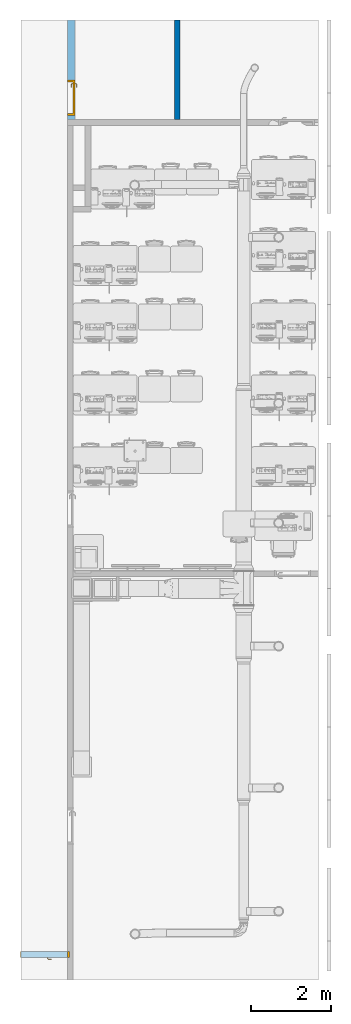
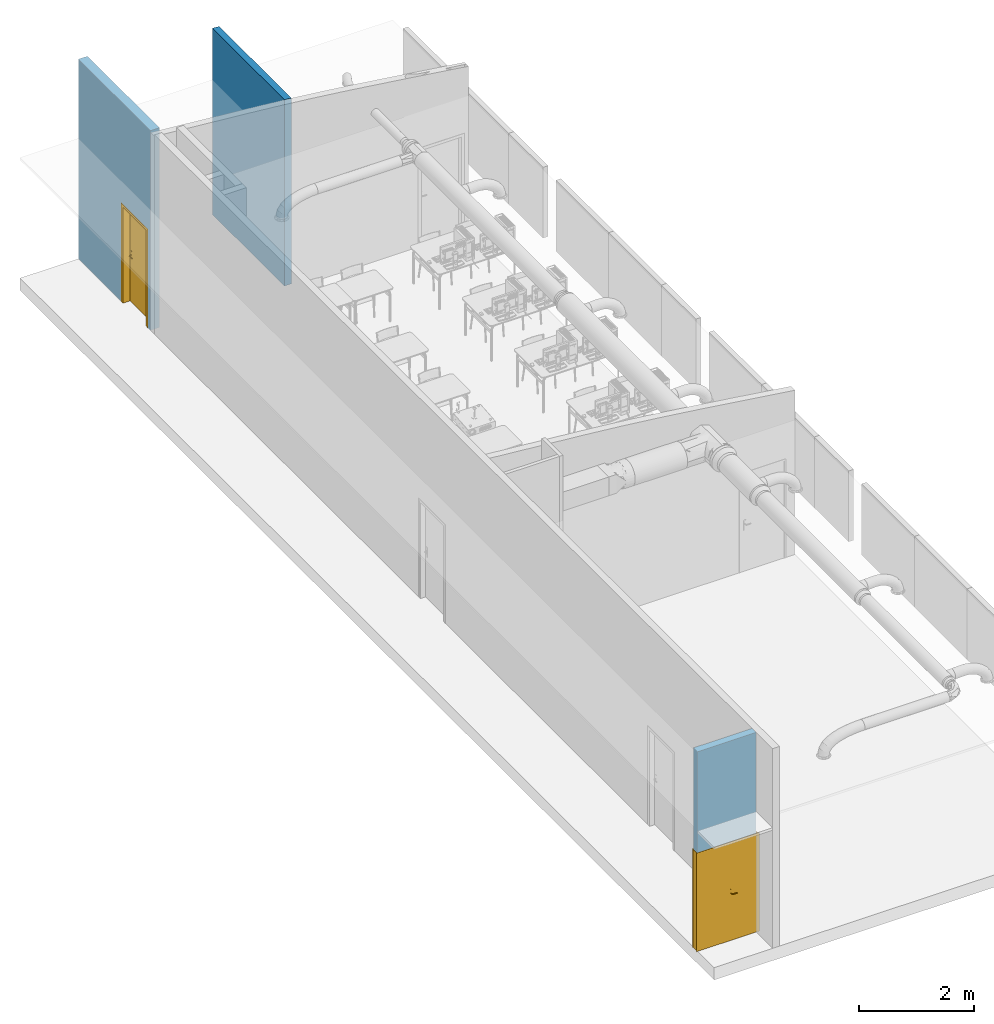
# One storey, part 5 of 31: 2 doors, 1 wall, 2 openings, plus 2 elements that do not belong to this part.
"""IFC2X3 building model written with IfcOpenShell, lengths in millimetres."""

from ifc_helpers import new_model, entity, si_unit, converted_unit, derived_unit, direction, frame, frame_2d, origin, place, context, subcontext, project, spatial, rectangle, extrude, faceted_brep, source, transform, mapped, material, material_list, layer, layer_set, layer_usage, type_object, type_shapes, element, fill, save


model = new_model("IFC2X3")

# Units and contexts
model_context = context("Model", 3, precision=0.01, world=origin(), true_north=direction((6.123031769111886e-17, 1.0)))
body_context = subcontext(model_context, "Body", "Model", "MODEL_VIEW")
ifc_project = project(units=[si_unit("LENGTHUNIT", "METRE", prefix="MILLI"), si_unit("AREAUNIT", "SQUARE_METRE"), si_unit("VOLUMEUNIT", "CUBIC_METRE"), converted_unit("PLANEANGLEUNIT", "DEGREE", entity("IfcRatioMeasure", 0.017453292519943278), si_unit("PLANEANGLEUNIT", "RADIAN"), dimensions=[0, 0, 0, 0, 0, 0, 0]), si_unit("MASSUNIT", "GRAM", prefix="KILO"), derived_unit("MASSDENSITYUNIT", [(si_unit("MASSUNIT", "GRAM", prefix="KILO"), 1), (si_unit("LENGTHUNIT", "METRE"), -3)]), derived_unit("MOMENTOFINERTIAUNIT", [(si_unit("LENGTHUNIT", "METRE"), 4)]), si_unit("TIMEUNIT", "SECOND"), si_unit("FREQUENCYUNIT", "HERTZ"), si_unit("THERMODYNAMICTEMPERATUREUNIT", "DEGREE_CELSIUS"), derived_unit("THERMALTRANSMITTANCEUNIT", [(si_unit("MASSUNIT", "GRAM", prefix="KILO"), 1), (si_unit("THERMODYNAMICTEMPERATUREUNIT", "KELVIN"), -1), (si_unit("TIMEUNIT", "SECOND"), -3)]), derived_unit("VOLUMETRICFLOWRATEUNIT", [(si_unit("LENGTHUNIT", "METRE"), 3), (si_unit("TIMEUNIT", "SECOND"), -1)]), derived_unit("MASSFLOWRATEUNIT", [(si_unit("MASSUNIT", "GRAM", prefix="KILO"), 1), (si_unit("TIMEUNIT", "SECOND"), -1)]), derived_unit("ROTATIONALFREQUENCYUNIT", [(si_unit("TIMEUNIT", "SECOND"), -1)]), si_unit("ELECTRICCURRENTUNIT", "AMPERE"), si_unit("ELECTRICVOLTAGEUNIT", "VOLT"), si_unit("POWERUNIT", "WATT"), si_unit("FORCEUNIT", "NEWTON", prefix="KILO"), si_unit("ILLUMINANCEUNIT", "LUX"), si_unit("LUMINOUSFLUXUNIT", "LUMEN"), si_unit("LUMINOUSINTENSITYUNIT", "CANDELA"), derived_unit("USERDEFINED", [(si_unit("MASSUNIT", "GRAM", prefix="KILO"), -1), (si_unit("LENGTHUNIT", "METRE"), -2), (si_unit("TIMEUNIT", "SECOND"), 3), (si_unit("LUMINOUSFLUXUNIT", "LUMEN"), 1)]), derived_unit("SOUNDPOWERUNIT", [(si_unit("MASSUNIT", "GRAM", prefix="KILO"), 1), (si_unit("LENGTHUNIT", "METRE"), 2), (si_unit("TIMEUNIT", "SECOND"), -3)]), derived_unit("SOUNDPRESSUREUNIT", [(si_unit("MASSUNIT", "GRAM", prefix="KILO"), 1), (si_unit("LENGTHUNIT", "METRE"), -1), (si_unit("TIMEUNIT", "SECOND"), -2)]), derived_unit("LINEARVELOCITYUNIT", [(si_unit("LENGTHUNIT", "METRE"), 1), (si_unit("TIMEUNIT", "SECOND"), -1)]), si_unit("PRESSUREUNIT", "PASCAL"), derived_unit("USERDEFINED", [(si_unit("LENGTHUNIT", "METRE"), -2), (si_unit("MASSUNIT", "GRAM", prefix="KILO"), 1), (si_unit("TIMEUNIT", "SECOND"), -2)]), derived_unit("LINEARFORCEUNIT", [(si_unit("MASSUNIT", "GRAM", prefix="KILO"), 1), (si_unit("LENGTHUNIT", "METRE"), 1), (si_unit("TIMEUNIT", "SECOND"), -2), (si_unit("LENGTHUNIT", "METRE"), -1)]), derived_unit("PLANARFORCEUNIT", [(si_unit("MASSUNIT", "GRAM", prefix="KILO"), 1), (si_unit("LENGTHUNIT", "METRE"), 1), (si_unit("TIMEUNIT", "SECOND"), -2), (si_unit("LENGTHUNIT", "METRE"), -2)])], contexts=[model_context])

# Site, building, storey
site_placement = place(None, origin())
site = spatial("IfcSite", under=ifc_project, at=site_placement, Name="Default", CompositionType="ELEMENT")
building_placement = place(site_placement, origin())
building = spatial("IfcBuilding", under=site, at=building_placement, CompositionType="ELEMENT")
storey_placement = place(building_placement, frame((0.0, 0.0, 3880.0)))
storey = spatial("IfcBuildingStorey", under=building, at=storey_placement, Name="Niveau 1", CompositionType="ELEMENT", Elevation=3880.0)

# Wall
ifc_material_1 = material(Name="Peinture")
ifc_layer_1 = layer(ifc_material_1, 140.0)
ifc_layer_set_1 = layer_set([ifc_layer_1], Name="Mur de base:Générique - 140 mm")
wall_type_1 = type_object("IfcWallType", Name="Mur de base:Générique - 140 mm", PredefinedType="STANDARD", material=ifc_layer_set_1)
wall_1_placement = place(storey_placement, frame((-3860.0, -320.0, 0.0), z_axis=(0.0, 0.0, 1.0), x_axis=(0.0, -1.0, 0.0)))
element("IfcWall", 1, at=wall_1_placement, inside=storey, type_object=wall_type_1, Name="Mur de base:Générique - 140 mm", ObjectType="Mur de base:Générique - 140 mm", context=body_context, shape_type="Brep", body=[
    faceted_brep([(0.0, -70.0, 3944.1659399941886), (0.0, -70.0, 0.0), (2500.0, -70.0, 0.0), (2500.0, -70.0, 3944.165939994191), (1784.0172588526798, -70.0, 3944.165939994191), (1431.9654822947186, -70.0, 3944.165939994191), (715.9827411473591, -70.0, 3944.165939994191), (2500.0, 70.0, 0.0), (0.0, 70.0, 0.0), (0.0, 70.0, 3929.2898280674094), (715.9827378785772, 70.0, 3929.289828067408), (1250.0, 70.0, 3929.2898280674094), (1784.0172621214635, 70.0, 3929.2898280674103), (2500.0, 70.0, 3929.2898280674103), (0.0, -0.0011671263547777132, 3936.7756599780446), (2500.0, -0.0010789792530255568, 3936.775650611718), (1607.991366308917, -0.14378177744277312, 3936.7908137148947), (491.5570375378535, 8.188795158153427, 3935.9047593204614), (982.9913725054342, -0.14378216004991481, 3936.790813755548)], [[[0, 1, 2, 3, 4, 5, 6]], [[7, 8, 9, 10, 11, 12, 13]], [[2, 1, 8, 7]], [[14, 9, 8, 1, 0]], [[2, 7, 13, 15, 3]], [[15, 16, 4]], [[15, 13, 12]], [[9, 14, 17]], [[16, 18, 6, 5, 4]], [[16, 15, 12]], [[18, 17, 6]], [[10, 17, 18]], [[4, 3, 15]], [[0, 6, 17]], [[12, 11, 10, 18, 16]], [[9, 17, 10]], [[17, 14, 0]]]),
])

# Wall, opening, door
ifc_layer_usage_1 = layer_usage(ifc_layer_set_1, "AXIS2", "POSITIVE", -69.99999999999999)
wall_2_placement = place(storey_placement, frame((-7780.0, -23750.0, 2075.0)))
wall_2 = element("IfcWallStandardCase", 2, at=wall_2_placement, inside=storey, type_object=wall_type_1, material=ifc_layer_usage_1, Name="Mur de base:Générique - 140 mm", ObjectType="Mur de base:Générique - 140 mm", context=body_context, shape_type="SweptSolid", body=[
    extrude(rectangle(XDim=1169.9999999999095, YDim=139.9999999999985, at=frame_2d((584.9999999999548, 1.6981971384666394e-12), x_axis=(1.0, 0.0))), origin(), (0.0, 0.0, 1.0), 2149.99999999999),
])
opening_1_placement = place(wall_2_placement, frame((1220.0, 70.0, -2075.0)))
opening_1 = element("IfcOpeningElement", 3, at=opening_1_placement, cuts=wall_2, Name="Int. Double:PP (1.16m x 2.04m):1", ObjectType="Opening", context=body_context, shape_type="SweptSolid", body=[
    extrude(rectangle(XDim=2075.00000000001, YDim=1230.0000000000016, at=frame_2d((1037.5000000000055, 615.000000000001), x_axis=(1.0, 0.0))), frame((0.0, 0.0, 0.0), z_axis=(0.0, -1.0, 0.0), x_axis=(0.0, 0.0, 1.0)), (0.0, 0.0, 1.0), 139.99999999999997),
])
ifc_material_2 = material(Name="Bois - Panneau de porte")
ifc_material_3 = material(Name="Finition Peinture - Blanc satiné")
ifc_material_4 = material(Name="Bois - Cadre de porte")
ifc_material_list_1 = material_list([ifc_material_2, ifc_material_3, ifc_material_3, ifc_material_3, ifc_material_3, ifc_material_2, ifc_material_4, ifc_material_4, ifc_material_4])
ifc_material_list_2 = material_list([ifc_material_2, ifc_material_3, ifc_material_3, ifc_material_3, ifc_material_3, ifc_material_2, ifc_material_4, ifc_material_4, ifc_material_4])
door_style_1 = type_object("IfcDoorStyle", Name="Int. Double:PP (1.16m x 2.04m)", ConstructionType="NOTDEFINED", OperationType="NOTDEFINED", ParameterTakesPrecedence=False, Sizeable=False, material=ifc_material_list_2)
shared_shape_1 = source(origin(), body_context, "Body", "Brep", [
    faceted_brep([(615.0, 40.0, 2040.0), (615.0, 40.0, 0.0), (35.0, 40.0, 0.0), (35.0, 40.0, 2040.0), (615.0, 0.0, 2040.0), (35.0, 0.0, 2040.0), (35.0, 0.0, 0.0), (615.0, 0.0, 0.0)], [[[0, 1, 2, 3]], [[4, 5, 6, 7]], [[3, 5, 4, 0]], [[2, 6, 5, 3]], [[1, 7, 6, 2]], [[0, 4, 7, 1]]]),
    faceted_brep([(685.3527618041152, -5.0, 866.003983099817), (695.0, -5.0, 870.0), (695.0, -5.0, 1080.0), (685.3527618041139, -5.0, 1083.9960169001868), (675.0, -5.0, 1085.3589838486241), (664.6472381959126, -5.0, 1083.996016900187), (655.0, -5.0, 1080.0), (655.0, -5.0, 870.0), (664.6472381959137, -5.0, 866.003983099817), (675.0, -5.0, 864.6410161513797), (685.3527618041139, 0.0, 1083.9960169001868), (695.0, 0.0, 1080.0), (695.0, 0.0, 870.0), (685.3527618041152, 0.0, 866.003983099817), (675.0, 0.0, 864.6410161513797), (664.6472381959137, 0.0, 866.003983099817), (655.0, 0.0, 870.0), (655.0, 0.0, 1080.0), (664.6472381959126, 0.0, 1083.996016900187), (675.0, 0.0, 1085.3589838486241)], [[[0, 1, 2, 3, 4, 5, 6, 7, 8, 9]], [[10, 11, 12, 13, 14, 15, 16, 17, 18, 19]], [[16, 15, 8, 7]], [[8, 15, 14, 9]], [[14, 13, 0, 9]], [[13, 12, 1, 0]], [[2, 1, 12, 11]], [[11, 10, 3, 2]], [[3, 10, 19, 4]], [[19, 18, 5, 4]], [[18, 17, 6, 5]], [[7, 6, 17, 16]]]),
    faceted_brep([(685.3527618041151, 40.0, 866.003983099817), (695.0, 40.0, 870.0), (695.0, 40.0, 1080.0), (685.3527618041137, 40.0, 1083.996016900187), (675.0, 40.0, 1085.3589838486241), (664.6472381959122, 40.0, 1083.9960169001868), (655.0, 40.0, 1080.0), (655.0, 40.0, 870.0), (664.6472381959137, 40.0, 866.0039830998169), (675.0, 40.0, 864.6410161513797), (685.3527618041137, 45.0, 1083.996016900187), (695.0, 45.0, 1080.0), (695.0, 45.0, 870.0), (685.3527618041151, 45.0, 866.003983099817), (675.0, 45.0, 864.6410161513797), (664.6472381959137, 45.0, 866.0039830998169), (655.0, 45.0, 870.0), (655.0, 45.0, 1080.0), (664.6472381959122, 45.0, 1083.9960169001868), (675.0, 45.0, 1085.3589838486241)], [[[0, 1, 2, 3, 4, 5, 6, 7, 8, 9]], [[10, 11, 12, 13, 14, 15, 16, 17, 18, 19]], [[11, 10, 3, 2]], [[3, 10, 19, 4]], [[19, 18, 5, 4]], [[18, 17, 6, 5]], [[7, 6, 17, 16]], [[16, 15, 8, 7]], [[8, 15, 14, 9]], [[14, 13, 0, 9]], [[13, 12, 1, 0]], [[2, 1, 12, 11]]]),
    faceted_brep([(672.9747013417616, -5.0, 1007.7804408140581), (677.0252986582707, -5.0, 1007.7804408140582), (681.0, -5.0, 1007.0), (681.0, -5.0, 993.0), (677.0252986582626, -5.0, 992.2195591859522), (672.9747013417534, -5.0, 992.21955918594), (669.0, -5.0, 993.0), (669.0, -5.0, 1007.0), (669.0, -32.65095070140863, 1007.0), (672.9747013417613, -31.00457549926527, 1007.7804408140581), (689.0235851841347, -47.053459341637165, 1007.7804408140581), (690.7013975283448, -43.00286202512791, 1007.7804408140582), (677.0252986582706, -29.326763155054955, 1007.7804408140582), (681.0, -27.680387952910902, 1007.0), (681.0, -27.68038795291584, 993.0), (677.0252986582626, -29.326763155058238, 992.2195591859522), (690.7013975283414, -43.0028620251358, 992.2195591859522), (689.0235851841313, -47.05345934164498, 992.21955918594), (672.9747013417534, -31.00457549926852, 992.21955918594), (669.0, -32.65095070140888, 993.0), (687.3772099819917, -51.028160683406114, 1007.0), (692.3477727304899, -39.02816068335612, 1007.0), (692.347772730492, -39.028160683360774, 993.0), (687.3772099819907, -51.02816068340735, 993.0), (775.0186406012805, -51.02816068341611, 993.0), (775.0186406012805, -47.053459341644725, 992.2195591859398), (775.0186406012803, -43.00286202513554, 992.219559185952), (775.0186406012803, -39.028160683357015, 993.0), (775.0186406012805, -39.02816068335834, 1007.0), (775.0186406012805, -43.00286202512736, 1007.780440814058), (775.0186406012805, -47.053459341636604, 1007.7804408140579), (775.0186406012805, -51.02816068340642, 1007.0), (727.3076972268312, -51.0281606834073, 1007.0), (732.860019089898, -45.02816067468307, 1007.878686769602), (733.6832066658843, -39.02816068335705, 1007.0), (733.683206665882, -39.028160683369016, 993.0), (732.8600188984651, -45.02816075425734, 992.1213132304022), (727.3077002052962, -51.02816068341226, 993.0)], [[[0, 1, 2, 3, 4, 5, 6, 7]], [[8, 9, 0, 7]], [[9, 10, 11, 12, 1, 0]], [[12, 13, 2, 1]], [[3, 2, 13, 14]], [[14, 15, 4, 3]], [[15, 16, 17, 18, 5, 4]], [[18, 19, 6, 5]], [[7, 6, 19, 8]], [[20, 10, 9, 8]], [[11, 21, 13, 12]], [[14, 13, 21, 22]], [[22, 16, 15, 14]], [[17, 23, 19, 18]], [[8, 19, 23, 20]], [[24, 25, 26, 27, 28, 29, 30, 31]], [[32, 30, 33]], [[31, 30, 32]], [[10, 20, 32]], [[33, 34, 11]], [[21, 11, 34]], [[34, 29, 28]], [[30, 29, 33]], [[29, 34, 33]], [[10, 32, 33]], [[10, 33, 11]], [[22, 21, 34, 28, 27, 35]], [[35, 26, 36]], [[37, 36, 25]], [[22, 35, 16]], [[35, 27, 26]], [[24, 37, 25]], [[23, 17, 37]], [[37, 17, 36]], [[17, 16, 36]], [[16, 35, 36]], [[25, 36, 26]], [[20, 23, 37, 24, 31, 32]]]),
    faceted_brep([(672.9747013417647, 45.0, 1007.7804408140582), (669.0, 45.0, 1007.0), (669.0, 45.0, 993.0), (672.974701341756, 45.0, 992.2195591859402), (677.0252986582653, 45.0, 992.2195591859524), (681.0, 45.0, 993.0), (681.0, 45.0, 1007.0), (677.025298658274, 45.0, 1007.7804408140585), (681.0, 67.48520450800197, 993.0), (681.0, 67.48520450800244, 1007.0), (677.0252986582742, 69.13157971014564, 1007.7804408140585), (690.8389061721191, 82.94518722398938, 1007.7804408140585), (689.161093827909, 86.99578454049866, 1007.7804408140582), (672.974701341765, 70.80939205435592, 1007.7804408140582), (669.0, 72.45576725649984, 1007.0), (669.0, 72.45576725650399, 993.0), (672.9747013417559, 70.80939205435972, 992.2195591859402), (689.1610938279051, 86.99578454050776, 992.2195591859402), (690.8389061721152, 82.94518722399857, 992.2195591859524), (677.025298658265, 69.13157971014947, 992.2195591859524), (692.4852813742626, 78.97048588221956, 993.0), (692.485281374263, 78.97048588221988, 1007.0), (687.5147186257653, 90.97048588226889, 1007.0), (687.5147186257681, 90.97048588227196, 993.0), (775.0457836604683, 78.97048588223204, 993.0), (775.0457836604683, 82.94518722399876, 992.2195591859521), (775.0457836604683, 86.99578454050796, 992.2195591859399), (775.0457836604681, 90.97048588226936, 993.0), (775.0457836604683, 90.97048588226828, 1007.0), (775.0457836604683, 86.99578454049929, 1007.780440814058), (775.0457836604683, 82.94518722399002, 1007.7804408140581), (775.0457836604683, 78.97048588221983, 1007.0), (733.7655206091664, 78.97048588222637, 993.0), (733.7655325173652, 78.97048588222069, 1007.0), (732.9423448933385, 84.9704858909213, 1007.8786867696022), (727.4452057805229, 90.9704858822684, 1007.0), (727.4452043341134, 90.9704858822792, 993.0), (732.9423451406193, 84.9704858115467, 992.1213132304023)], [[[0, 1, 2, 3, 4, 5, 6, 7]], [[6, 5, 8, 9]], [[9, 10, 7, 6]], [[10, 11, 12, 13, 0, 7]], [[13, 14, 1, 0]], [[2, 1, 14, 15]], [[15, 16, 3, 2]], [[16, 17, 18, 19, 4, 3]], [[19, 8, 5, 4]], [[9, 8, 20, 21]], [[21, 11, 10, 9]], [[12, 22, 14, 13]], [[15, 14, 22, 23]], [[23, 17, 16, 15]], [[18, 20, 8, 19]], [[24, 25, 26, 27, 28, 29, 30, 31]], [[21, 20, 32, 24, 31, 33]], [[33, 30, 34]], [[35, 34, 29]], [[21, 33, 11]], [[33, 31, 30]], [[28, 35, 29]], [[22, 12, 35]], [[35, 12, 34]], [[12, 11, 34]], [[11, 33, 34]], [[29, 34, 30]], [[22, 35, 28, 27, 36, 23]], [[36, 26, 37]], [[27, 26, 36]], [[17, 23, 36]], [[37, 32, 18]], [[20, 18, 32]], [[32, 25, 24]], [[26, 25, 37]], [[25, 32, 37]], [[17, 36, 37]], [[17, 37, 18]]]),
    faceted_brep([(615.0, 40.0, 2040.0), (1195.0, 40.0, 2040.0), (1195.0, 40.0, 0.0), (615.0, 40.0, 0.0), (615.0, 0.0, 2040.0), (615.0, 0.0, 0.0), (1195.0, 0.0, 0.0), (1195.0, 0.0, 2040.0)], [[[0, 1, 2, 3]], [[4, 5, 6, 7]], [[1, 0, 4, 7]], [[2, 1, 7, 6]], [[3, 2, 6, 5]], [[0, 3, 5, 4]]]),
    faceted_brep([(0.0, 0.0, 0.0), (0.0, 140.0, 0.0), (50.0, 140.0, 0.0), (50.0, 40.0, 0.0), (35.0, 40.0, 0.0), (35.0, 0.0, 0.0), (0.0, 0.0, 2075.0), (0.0, 140.0, 2075.0), (1230.0, 140.0, 2075.0), (1230.0, 140.0, 0.0), (1180.0, 140.0, 0.0), (1180.0, 140.0, 2025.0), (50.0, 140.0, 2025.0), (50.0, 40.0, 2025.0), (1180.0, 40.0, 2025.0), (1180.0, 40.0, 0.0), (1195.0, 40.0, 0.0), (1195.0, 40.0, 2040.0), (35.0, 40.0, 2040.0), (35.0, 0.0, 2040.0), (1195.0, 0.0, 2040.0), (1195.0, 0.0, 0.0), (1230.0, 0.0, 0.0), (1230.0, 0.0, 2075.0)], [[[0, 1, 2, 3, 4, 5]], [[1, 0, 6, 7]], [[2, 1, 7, 8, 9, 10, 11, 12]], [[3, 2, 12, 13]], [[4, 3, 13, 14, 15, 16, 17, 18]], [[5, 4, 18, 19]], [[0, 5, 19, 20, 21, 22, 23, 6]], [[8, 23, 22, 9]], [[22, 21, 16, 15, 10, 9]], [[14, 11, 10, 15]], [[20, 17, 16, 21]], [[7, 6, 23, 8]], [[13, 12, 11, 14]], [[19, 18, 17, 20]]]),
    faceted_brep([(15.0, 140.0, 0.0), (-15.0, 140.0, 0.0), (-15.0, 145.0, 0.0), (15.0, 145.0, 0.0), (15.0, 140.0, 2060.0), (1215.0, 140.0, 2060.0), (1215.0, 140.0, 0.0), (1245.0, 140.0, 0.0), (1245.0, 140.0, 2090.0), (-15.0, 140.0, 2090.0), (-15.0, 145.0, 2090.0), (1245.0, 145.0, 2090.0), (1245.0, 145.0, 0.0), (1215.0, 145.0, 0.0), (1215.0, 145.0, 2060.0), (15.0, 145.0, 2060.0)], [[[0, 1, 2, 3]], [[1, 0, 4, 5, 6, 7, 8, 9]], [[2, 1, 9, 10]], [[3, 2, 10, 11, 12, 13, 14, 15]], [[0, 3, 15, 4]], [[5, 14, 13, 6]], [[6, 13, 12, 7]], [[11, 8, 7, 12]], [[10, 9, 8, 11]], [[4, 15, 14, 5]]]),
    faceted_brep([(-15.0, -5.0, 0.0), (15.0, -5.0, 0.0), (15.0, -5.0, 2060.0), (1215.0, -5.0, 2060.0), (1215.0, -5.0, 0.0), (1245.0, -5.0, 0.0), (1245.0, -5.0, 2090.0), (-15.0, -5.0, 2090.0), (-15.0, 0.0, 0.0), (-15.0, 0.0, 2090.0), (15.0, 0.0, 0.0), (1245.0, 0.0, 2090.0), (1245.0, 0.0, 0.0), (1215.0, 0.0, 0.0), (1215.0, 0.0, 2060.0), (15.0, 0.0, 2060.0)], [[[0, 1, 2, 3, 4, 5, 6, 7]], [[8, 0, 7, 9]], [[10, 8, 9, 11, 12, 13, 14, 15]], [[1, 10, 15, 2]], [[3, 14, 13, 4]], [[11, 6, 5, 12]], [[9, 7, 6, 11]], [[2, 15, 14, 3]], [[4, 13, 12, 5]], [[1, 0, 8, 10]]]),
])
type_shapes(door_style_1, [shared_shape_1])
door_1_placement = place(opening_1_placement, frame((-1230.0, -140.0, 0.0)))
door_1 = element("IfcDoor", 4, at=door_1_placement, inside=storey, type_object=door_style_1, material=ifc_material_list_1, Name="Int. Double:PP (1.16m x 2.04m)", ObjectType="Int. Double:PP (1.16m x 2.04m)", OverallHeight=2075.000000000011, OverallWidth=1230.0000000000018, context=body_context, shape_type="MappedRepresentation", body=[
    mapped(shared_shape_1, transform((0.0, 0.0, 0.0), scale=1.0)),
])
fill(opening_1, door_1)

ifc_material_5 = material(Name="Mur par défaut")
ifc_layer_2 = layer(ifc_material_5, 180.0)
ifc_layer_set_2 = layer_set([ifc_layer_2], Name="Mur de base:Générique - 180 mm")
ifc_layer_usage_2 = layer_usage(ifc_layer_set_2, "AXIS2", "NEGATIVE", 90.0)
wall_type_2 = type_object("IfcWallType", Name="Mur de base:Générique - 180 mm", PredefinedType="STANDARD", material=ifc_layer_set_2)
wall_3_placement = place(storey_placement, frame((-6520.0, -2820.0, 0.0), z_axis=(0.0, 0.0, 1.0), x_axis=(0.0, 1.0, 0.0)))
wall_3 = element("IfcWallStandardCase", 5, at=wall_3_placement, inside=storey, type_object=wall_type_2, material=ifc_layer_usage_2, Name="Mur de base:Générique - 180 mm", ObjectType="Mur de base:Générique - 180 mm", context=body_context, shape_type="SweptSolid", body=[
    extrude(rectangle(XDim=2500.000000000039, YDim=180.00000000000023, at=frame_2d((1250.0000000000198, 0.0), x_axis=(1.0, 0.0))), origin(), (0.0, 0.0, 1.0), 4225.000000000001),
])
opening_2_placement = place(wall_3_placement, frame((1000.0, 90.0, 0.0)))
opening_2 = element("IfcOpeningElement", 6, at=opening_2_placement, cuts=wall_3, Name="Int. Simple:PP (0.83m x 2.04m):1", ObjectType="Opening", context=body_context, shape_type="SweptSolid", body=[
    extrude(rectangle(XDim=2075.0, YDim=900.0000000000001, at=frame_2d((1037.5, 450.00000000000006), x_axis=(1.0, 0.0))), frame((0.0, 0.0, 0.0), z_axis=(0.0, -1.0, 0.0), x_axis=(0.0, 0.0, 1.0)), (0.0, 0.0, 1.0), 180.0),
])
ifc_material_list_3 = material_list([ifc_material_3, ifc_material_3, ifc_material_3, ifc_material_3, ifc_material_2, ifc_material_4, ifc_material_4, ifc_material_4])
ifc_material_list_4 = material_list([ifc_material_3, ifc_material_3, ifc_material_3, ifc_material_3, ifc_material_2, ifc_material_4, ifc_material_4, ifc_material_4])
door_style_2 = type_object("IfcDoorStyle", Name="Int. Simple:PP (0.83m x 2.04m)", ConstructionType="NOTDEFINED", OperationType="SINGLE_SWING_RIGHT", ParameterTakesPrecedence=False, Sizeable=False, material=ifc_material_list_4)
shared_shape_2 = source(origin(), body_context, "Body", "Brep", [
    faceted_brep([(895.0, -5.0, 870.0), (895.0, -5.0, 1080.0), (885.3527618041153, -5.0, 1083.996016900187), (875.0, -5.0, 1085.3589838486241), (864.6472381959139, -5.0, 1083.9960169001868), (855.0, -5.0, 1080.0), (855.0, -5.0, 870.0), (864.6472381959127, -5.0, 866.003983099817), (875.0, -5.0, 864.6410161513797), (885.3527618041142, -5.0, 866.003983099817), (895.0, 0.0, 1080.0), (895.0, 0.0, 870.0), (885.3527618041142, 0.0, 866.003983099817), (875.0, 0.0, 864.6410161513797), (864.6472381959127, 0.0, 866.003983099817), (855.0, 0.0, 870.0), (855.0, 0.0, 1080.0), (864.6472381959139, 0.0, 1083.9960169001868), (875.0, 0.0, 1085.3589838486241), (885.3527618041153, 0.0, 1083.996016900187)], [[[0, 1, 2, 3, 4, 5, 6, 7, 8, 9]], [[10, 11, 12, 13, 14, 15, 16, 17, 18, 19]], [[9, 12, 11, 0]], [[8, 13, 12, 9]], [[7, 14, 13, 8]], [[7, 6, 15, 14]], [[15, 6, 5, 16]], [[4, 17, 16, 5]], [[3, 18, 17, 4]], [[2, 19, 18, 3]], [[2, 1, 10, 19]], [[11, 10, 1, 0]]]),
    faceted_brep([(895.0, 40.0, 870.0), (895.0, 40.0, 1080.0), (885.3527618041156, 40.0, 1083.9960169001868), (875.0, 40.0, 1085.3589838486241), (864.6472381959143, 40.0, 1083.996016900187), (855.0, 40.0, 1080.0), (855.0, 40.0, 870.0), (864.6472381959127, 40.0, 866.003983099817), (875.0, 40.0, 864.6410161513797), (885.3527618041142, 40.0, 866.0039830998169), (875.0, 45.0, 1085.3589838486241), (885.3527618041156, 45.0, 1083.9960169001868), (895.0, 45.0, 1080.0), (895.0, 45.0, 870.0), (885.3527618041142, 45.0, 866.0039830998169), (875.0, 45.0, 864.6410161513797), (864.6472381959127, 45.0, 866.003983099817), (855.0, 45.0, 870.0), (855.0, 45.0, 1080.0), (864.6472381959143, 45.0, 1083.996016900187)], [[[0, 1, 2, 3, 4, 5, 6, 7, 8, 9]], [[10, 11, 12, 13, 14, 15, 16, 17, 18, 19]], [[4, 19, 18, 5]], [[3, 10, 19, 4]], [[2, 11, 10, 3]], [[2, 1, 12, 11]], [[13, 12, 1, 0]], [[9, 14, 13, 0]], [[8, 15, 14, 9]], [[7, 16, 15, 8]], [[7, 6, 17, 16]], [[17, 6, 5, 18]]]),
    faceted_brep([(872.9747013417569, -5.0, 1007.7804408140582), (877.0252986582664, -5.0, 1007.7804408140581), (881.0, -5.0, 1007.0), (881.0, -5.0, 993.0), (877.0252986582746, -5.0, 992.21955918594), (872.9747013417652, -5.0, 992.2195591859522), (869.0, -5.0, 993.0), (869.0, -5.0, 1007.0), (877.0252986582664, -31.0045754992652, 1007.7804408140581), (881.0, -32.650950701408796, 1007.0), (872.9747013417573, -29.326763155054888, 1007.7804408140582), (859.298602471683, -43.00286202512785, 1007.7804408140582), (860.9764148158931, -47.053459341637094, 1007.7804408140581), (869.0, -27.68038795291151, 1007.0), (869.0, -27.680387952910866, 993.0), (872.9747013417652, -29.32676315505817, 992.2195591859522), (877.0252986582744, -31.004575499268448, 992.21955918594), (860.9764148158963, -47.05345934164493, 992.21955918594), (859.2986024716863, -43.00286202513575, 992.2195591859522), (881.0, -32.650950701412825, 993.0), (862.6227900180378, -51.028160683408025, 1007.0), (857.6522272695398, -39.02816068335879, 1007.0), (857.6522272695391, -39.02816068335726, 993.0), (862.6227900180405, -51.02816068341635, 993.0), (774.9813593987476, -51.02816068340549, 1007.0), (774.9813593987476, -47.05345934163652, 1007.7804408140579), (774.9813593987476, -43.00286202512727, 1007.780440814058), (774.9813593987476, -39.0281606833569, 1007.0), (774.9813593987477, -39.028160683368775, 993.0), (774.9813593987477, -43.00286202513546, 992.219559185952), (774.9813593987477, -47.05345934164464, 992.2195591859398), (774.9813593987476, -51.02816068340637, 993.0), (817.13998091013, -45.02816067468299, 1007.878686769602), (822.6923027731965, -51.02816068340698, 1007.0), (816.3167933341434, -39.02816068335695, 1007.0), (816.3167933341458, -39.02816068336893, 993.0), (817.1399811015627, -45.02816075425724, 992.1213132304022), (822.6923104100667, -51.02816068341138, 993.0)], [[[0, 1, 2, 3, 4, 5, 6, 7]], [[2, 1, 8, 9]], [[1, 0, 10, 11, 12, 8]], [[0, 7, 13, 10]], [[14, 13, 7, 6]], [[5, 15, 14, 6]], [[5, 4, 16, 17, 18, 15]], [[3, 19, 16, 4]], [[9, 19, 3, 2]], [[9, 8, 12, 20]], [[10, 13, 21, 11]], [[22, 21, 13, 14]], [[14, 15, 18, 22]], [[16, 19, 23, 17]], [[20, 23, 19, 9]], [[24, 25, 26, 27, 28, 29, 30, 31]], [[32, 25, 33]], [[33, 25, 24]], [[33, 20, 12]], [[11, 34, 32]], [[34, 11, 21]], [[27, 26, 34]], [[32, 26, 25]], [[32, 34, 26]], [[32, 33, 12]], [[11, 32, 12]], [[21, 22, 35, 28, 27, 34]], [[36, 29, 35]], [[30, 36, 37]], [[18, 35, 22]], [[29, 28, 35]], [[30, 37, 31]], [[37, 17, 23]], [[36, 17, 37]], [[36, 18, 17]], [[36, 35, 18]], [[29, 36, 30]], [[23, 20, 33, 24, 31, 37]]]),
    faceted_brep([(872.9747013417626, 45.0, 992.2195591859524), (877.0252986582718, 45.0, 992.2195591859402), (881.0, 45.0, 993.0), (881.0, 45.0, 1007.0), (877.0252986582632, 45.0, 1007.7804408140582), (872.9747013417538, 45.0, 1007.7804408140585), (869.0, 45.0, 1007.0), (869.0, 45.0, 993.0), (869.0, 67.48520450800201, 1007.0), (869.0, 67.48520450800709, 993.0), (872.9747013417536, 69.1315797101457, 1007.7804408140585), (877.0252986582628, 70.809392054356, 1007.7804408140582), (860.8389061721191, 86.99578454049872, 1007.7804408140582), (859.161093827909, 82.94518722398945, 1007.7804408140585), (881.0, 72.45576725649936, 1007.0), (881.0, 72.45576725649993, 993.0), (877.025298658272, 70.80939205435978, 992.2195591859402), (872.9747013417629, 69.13157971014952, 992.2195591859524), (859.1610938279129, 82.94518722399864, 992.2195591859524), (860.8389061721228, 86.99578454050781, 992.2195591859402), (857.5147186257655, 78.9704858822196, 1007.0), (857.5147186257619, 78.9704858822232, 993.0), (862.4852813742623, 90.9704858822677, 1007.0), (862.4852813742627, 90.97048588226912, 993.0), (774.9542163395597, 82.94518722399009, 1007.7804408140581), (774.9542163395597, 86.99578454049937, 1007.780440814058), (774.9542163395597, 90.9704858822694, 1007.0), (774.9542163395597, 90.9704858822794, 993.0), (774.9542163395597, 86.99578454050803, 992.2195591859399), (774.9542163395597, 82.94518722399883, 992.2195591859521), (774.9542163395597, 78.97048588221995, 993.0), (774.9542163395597, 78.97048588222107, 1007.0), (816.2344674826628, 78.97048588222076, 1007.0), (816.2344794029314, 78.97048588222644, 993.0), (817.0576551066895, 84.97048589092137, 1007.8786867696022), (822.5547942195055, 90.97048588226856, 1007.0), (822.5547956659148, 90.97048588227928, 993.0), (817.0576548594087, 84.97048581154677, 992.1213132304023)], [[[0, 1, 2, 3, 4, 5, 6, 7]], [[8, 9, 7, 6]], [[5, 10, 8, 6]], [[5, 4, 11, 12, 13, 10]], [[3, 14, 11, 4]], [[14, 3, 2, 15]], [[2, 1, 16, 15]], [[1, 0, 17, 18, 19, 16]], [[0, 7, 9, 17]], [[20, 21, 9, 8]], [[8, 10, 13, 20]], [[14, 22, 12, 11]], [[23, 22, 14, 15]], [[15, 16, 19, 23]], [[17, 9, 21, 18]], [[24, 25, 26, 27, 28, 29, 30, 31]], [[21, 20, 32, 31, 30, 33]], [[34, 24, 32]], [[25, 34, 35]], [[13, 32, 20]], [[24, 31, 32]], [[25, 35, 26]], [[35, 12, 22]], [[34, 12, 35]], [[34, 13, 12]], [[34, 32, 13]], [[24, 34, 25]], [[22, 23, 36, 27, 26, 35]], [[37, 28, 36]], [[36, 28, 27]], [[36, 23, 19]], [[18, 33, 37]], [[33, 18, 21]], [[30, 29, 33]], [[37, 29, 28]], [[37, 33, 29]], [[37, 36, 19]], [[18, 37, 19]]]),
    faceted_brep([(935.0, 40.0, 2040.0), (935.0, 40.0, 0.0), (105.0, 40.0, 0.0), (105.0, 40.0, 2040.0), (935.0, 0.0, 2040.0), (105.0, 0.0, 2040.0), (105.0, 0.0, 0.0), (935.0, 0.0, 0.0)], [[[0, 1, 2, 3]], [[4, 5, 6, 7]], [[3, 5, 4, 0]], [[2, 6, 5, 3]], [[1, 7, 6, 2]], [[0, 4, 7, 1]]]),
    faceted_brep([(970.0, 0.0, 0.0), (935.0, 0.0, 0.0), (935.0, 40.0, 0.0), (920.0, 40.0, 0.0), (920.0, 180.0, 0.0), (970.0, 180.0, 0.0), (970.0, 180.0, 2075.0), (970.0, 0.0, 2075.0), (920.0, 180.0, 2025.0), (120.0, 180.0, 2025.0), (120.0, 180.0, 0.0), (70.0, 180.0, 0.0), (70.0, 180.0, 2075.0), (920.0, 40.0, 2025.0), (935.0, 40.0, 2040.0), (105.0, 40.0, 2040.0), (105.0, 40.0, 0.0), (120.0, 40.0, 0.0), (120.0, 40.0, 2025.0), (935.0, 0.0, 2040.0), (70.0, 0.0, 2075.0), (70.0, 0.0, 0.0), (105.0, 0.0, 0.0), (105.0, 0.0, 2040.0)], [[[0, 1, 2, 3, 4, 5]], [[5, 6, 7, 0]], [[4, 8, 9, 10, 11, 12, 6, 5]], [[3, 13, 8, 4]], [[2, 14, 15, 16, 17, 18, 13, 3]], [[1, 19, 14, 2]], [[0, 7, 20, 21, 22, 23, 19, 1]], [[12, 11, 21, 20]], [[21, 11, 10, 17, 16, 22]], [[18, 17, 10, 9]], [[23, 22, 16, 15]], [[6, 12, 20, 7]], [[13, 18, 9, 8]], [[19, 23, 15, 14]]]),
    faceted_brep([(955.0, 180.0, 0.0), (955.0, 185.0, 0.0), (985.0, 185.0, 0.0), (985.0, 180.0, 0.0), (985.0, 180.0, 2090.0), (55.0, 180.0, 2090.0), (55.0, 180.0, 0.0), (85.0, 180.0, 0.0), (85.0, 180.0, 2060.0), (955.0, 180.0, 2060.0), (985.0, 185.0, 2090.0), (955.0, 185.0, 2060.0), (85.0, 185.0, 2060.0), (85.0, 185.0, 0.0), (55.0, 185.0, 0.0), (55.0, 185.0, 2090.0)], [[[0, 1, 2, 3]], [[3, 4, 5, 6, 7, 8, 9, 0]], [[2, 10, 4, 3]], [[1, 11, 12, 13, 14, 15, 10, 2]], [[0, 9, 11, 1]], [[7, 6, 14, 13]], [[8, 7, 13, 12]], [[15, 14, 6, 5]], [[10, 15, 5, 4]], [[9, 8, 12, 11]]]),
    faceted_brep([(985.0, -5.0, 0.0), (985.0, -5.0, 2090.0), (55.0, -5.0, 2090.0), (55.0, -5.0, 0.0), (85.0, -5.0, 0.0), (85.0, -5.0, 2060.0), (955.0, -5.0, 2060.0), (955.0, -5.0, 0.0), (985.0, 0.0, 0.0), (985.0, 0.0, 2090.0), (955.0, 0.0, 0.0), (955.0, 0.0, 2060.0), (85.0, 0.0, 2060.0), (85.0, 0.0, 0.0), (55.0, 0.0, 0.0), (55.0, 0.0, 2090.0)], [[[0, 1, 2, 3, 4, 5, 6, 7]], [[8, 9, 1, 0]], [[10, 11, 12, 13, 14, 15, 9, 8]], [[7, 6, 11, 10]], [[5, 4, 13, 12]], [[15, 14, 3, 2]], [[9, 15, 2, 1]], [[6, 5, 12, 11]], [[4, 3, 14, 13]], [[7, 10, 8, 0]]]),
])
type_shapes(door_style_2, [shared_shape_2])
door_2_placement = place(opening_2_placement, frame((-970.0, -180.0, 0.0)))
door_2 = element("IfcDoor", 7, at=door_2_placement, inside=storey, type_object=door_style_2, material=ifc_material_list_3, Name="Int. Simple:PP (0.83m x 2.04m)", ObjectType="Int. Simple:PP (0.83m x 2.04m)", OverallHeight=2075.0, OverallWidth=900.0000000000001, context=body_context, shape_type="MappedRepresentation", body=[
    mapped(shared_shape_2, transform((0.0, 0.0, 0.0), scale=1.0)),
])
fill(opening_2, door_2)

save(model, "model.ifc")
